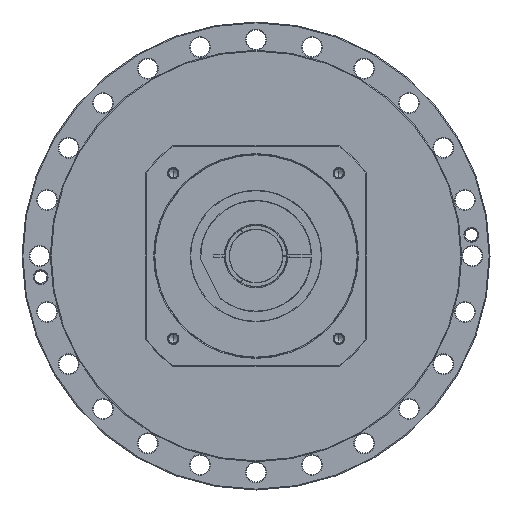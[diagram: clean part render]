
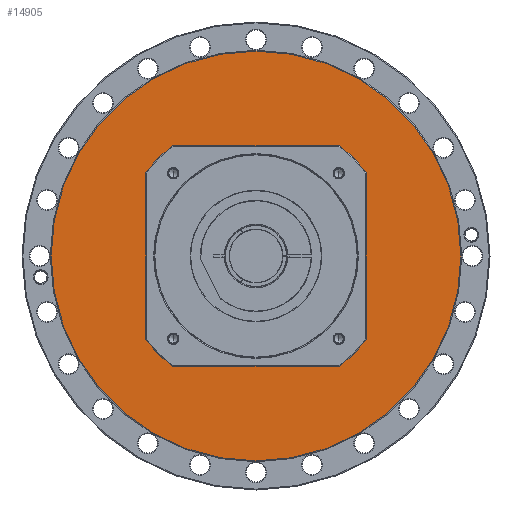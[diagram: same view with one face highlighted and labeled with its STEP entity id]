
A CAD part, left-side view. The second image highlights one B-rep face of the part: STEP entity #14905.
In plain terms, the highlighted planar face has unit normal (-1, 0, 0) as drawn and (1, 0, 0) by its records, which use the part's own axes.
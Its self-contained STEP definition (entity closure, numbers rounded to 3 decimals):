
#14558=CARTESIAN_POINT('',(-5.5,0.,0.));
#14559=DIRECTION('',(-1.,0.,0.));
#14560=DIRECTION('',(0.,-1.,0.));
#14561=AXIS2_PLACEMENT_3D('',#14558,#14559,#14560);
#14563=CARTESIAN_POINT('',(-5.5,0.,0.));
#14564=DIRECTION('',(-1.,0.,0.));
#14565=DIRECTION('',(0.,1.,0.));
#14566=AXIS2_PLACEMENT_3D('',#14563,#14564,#14565);
#14568=CARTESIAN_POINT('',(-5.5,0.,0.));
#14569=DIRECTION('',(-1.,0.,0.));
#14570=DIRECTION('',(0.,-1.,0.));
#14571=AXIS2_PLACEMENT_3D('',#14568,#14569,#14570);
#14573=CARTESIAN_POINT('',(-5.5,0.,0.));
#14574=DIRECTION('',(-1.,0.,0.));
#14575=DIRECTION('',(0.,1.,0.));
#14576=AXIS2_PLACEMENT_3D('',#14573,#14574,#14575);
#14736=CARTESIAN_POINT('',(-5.5,-232.,0.));
#14737=CARTESIAN_POINT('',(-5.5,232.,0.));
#14738=VERTEX_POINT('',#14736);
#14739=VERTEX_POINT('',#14737);
#14756=CARTESIAN_POINT('',(-5.5,-111.5,0.));
#14757=CARTESIAN_POINT('',(-5.5,111.5,0.));
#14758=VERTEX_POINT('',#14756);
#14759=VERTEX_POINT('',#14757);
#14890=CARTESIAN_POINT('',(-5.5,0.,0.));
#14891=DIRECTION('',(1.,0.,0.));
#14892=DIRECTION('',(0.,-1.,0.));
#14893=AXIS2_PLACEMENT_3D('',#14890,#14891,#14892);
#14894=PLANE('',#14893);
#14896=ORIENTED_EDGE('',*,*,#14895,.T.);
#14898=ORIENTED_EDGE('',*,*,#14897,.T.);
#14899=EDGE_LOOP('',(#14896,#14898));
#14900=FACE_OUTER_BOUND('',#14899,.F.);
#14901=ORIENTED_EDGE('',*,*,#14884,.F.);
#14902=ORIENTED_EDGE('',*,*,#14870,.F.);
#14903=EDGE_LOOP('',(#14901,#14902));
#14904=FACE_BOUND('',#14903,.F.);
#14905=ADVANCED_FACE('',(#14900,#14904),#14894,.T.);
#14562=CIRCLE('',#14561,111.5);
#14567=CIRCLE('',#14566,111.5);
#14572=CIRCLE('',#14571,232.);
#14577=CIRCLE('',#14576,232.);
#14870=EDGE_CURVE('',#14759,#14758,#14567,.T.);
#14884=EDGE_CURVE('',#14758,#14759,#14562,.T.);
#14895=EDGE_CURVE('',#14738,#14739,#14572,.T.);
#14897=EDGE_CURVE('',#14739,#14738,#14577,.T.);
